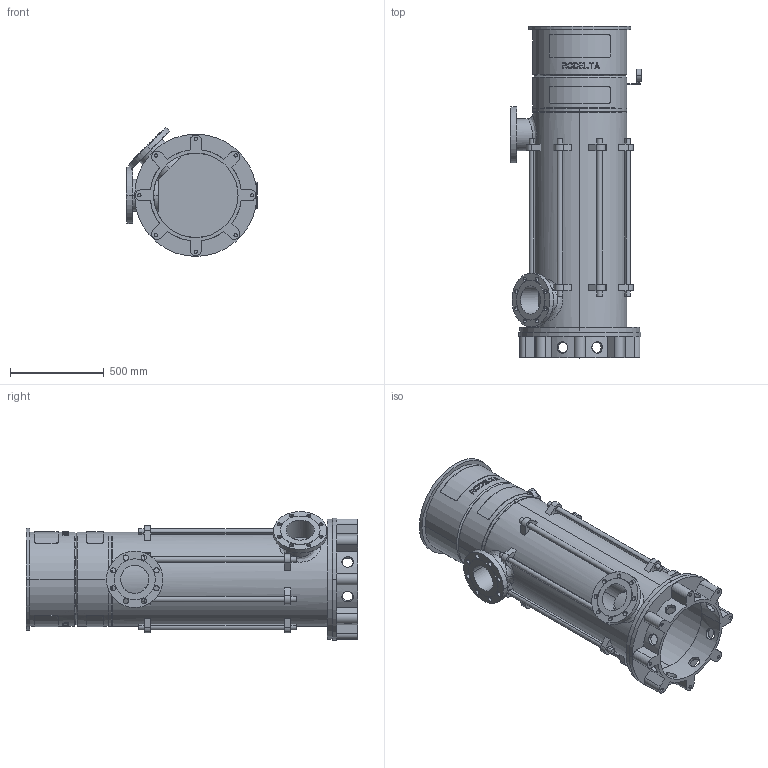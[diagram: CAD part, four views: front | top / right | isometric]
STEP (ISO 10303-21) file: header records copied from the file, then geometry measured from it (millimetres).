
FILE_DESCRIPTION((''),'2;1');
FILE_NAME('LS6_5TR_0GR_PN25_ABOVE_30KW','2025-10-24T10:48:10',('Lyritlocal'),(''),'CREO PARAMETRIC BY PTC INC, 2022014','CREO PARAMETRIC BY PTC INC, 2022014','');
FILE_SCHEMA(('CONFIG_CONTROL_DESIGN'));
Length unit declared in the file: millimetre
Products named in the file (1): LS6_5TR_0GR_PN25_ABOVE_30KW
Bounding box: 700 x 1765 x 685.27 mm (x, y, z)
Volume: 57089211.5 mm3; surface area: 7979077.5 mm2
Topology: 3 solids, 11 shells, 732 faces, 1889 edges, 1258 vertices
Faces by surface type: plane 438, cylinder 274, cone 12, bspline 8
Entity records: 24200 total; most frequent: CARTESIAN_POINT 6380, ORIENTED_EDGE 3746, DIRECTION 3535, EDGE_CURVE 1889, AXIS2_PLACEMENT_3D 1341, VERTEX_POINT 1258, EDGE_LOOP 895, VECTOR 853
